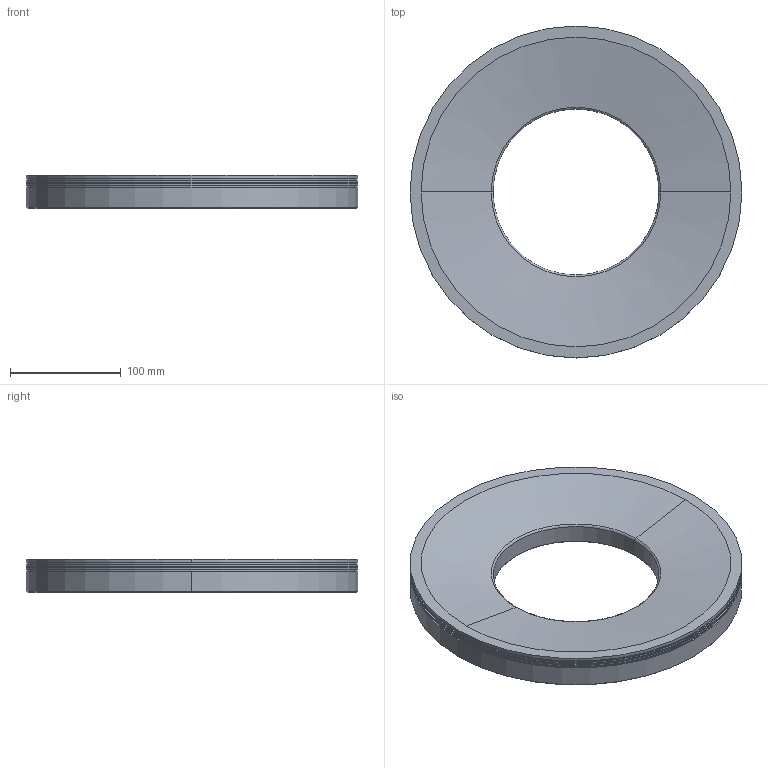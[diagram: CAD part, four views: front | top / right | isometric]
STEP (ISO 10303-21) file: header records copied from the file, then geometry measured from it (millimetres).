
FILE_DESCRIPTION((''),'2;1');
FILE_NAME('DRL7030','2020-03-28T',('ASUS'),(''),'PRO/ENGINEER BY PARAMETRIC TECHNOLOGY CORPORATION, 2008380','PRO/ENGINEER BY PARAMETRIC TECHNOLOGY CORPORATION, 2008380','');
FILE_SCHEMA(('CONFIG_CONTROL_DESIGN'));
Length unit declared in the file: millimetre
Products named in the file (1): DRL7030
Bounding box: 300 x 300 x 30 mm (x, y, z)
Volume: 1358663.5 mm3; surface area: 149120.1 mm2
Topology: 1 solids, 9 shells, 104 faces, 240 edges, 144 vertices
Faces by surface type: cylinder 48, cone 38, plane 16, torus 2
Entity records: 2905 total; most frequent: DIRECTION 572, CARTESIAN_POINT 473, ORIENTED_EDGE 416, AXIS2_PLACEMENT_3D 243, EDGE_CURVE 224, VERTEX_POINT 144, CIRCLE 138, EDGE_LOOP 128
